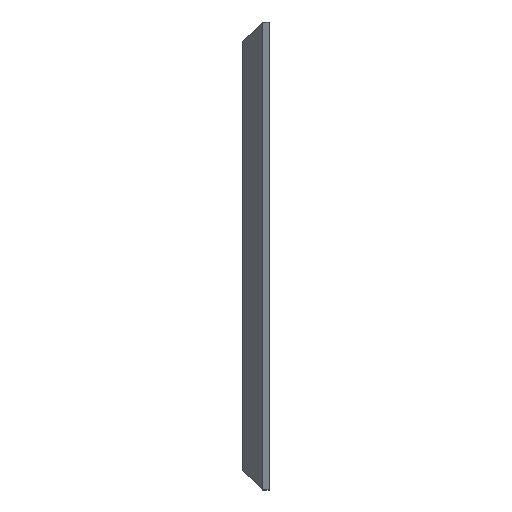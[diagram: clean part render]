
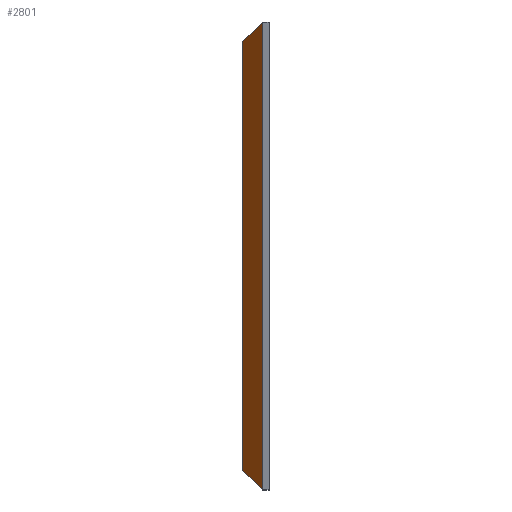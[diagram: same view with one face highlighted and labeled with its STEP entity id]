
A CAD part, left-side view. The second image highlights one B-rep face of the part: STEP entity #2801.
In plain terms, the highlighted planar face has unit normal (-0.683, 0.707, -0.183).
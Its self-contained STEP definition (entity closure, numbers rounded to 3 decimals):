
#285 = EDGE_LOOP ( 'NONE', ( #4992, #4993, #4994, #4995 ) ) ;
#879 = VECTOR ( 'NONE', #4110, 1000. ) ;
#881 = LINE ( 'NONE', #4111, #879 ) ;
#883 = VECTOR ( 'NONE', #4112, 1000. ) ;
#887 = LINE ( 'NONE', #4113, #883 ) ;
#903 = VECTOR ( 'NONE', #4140, 1000. ) ;
#905 = LINE ( 'NONE', #4141, #903 ) ;
#942 = VECTOR ( 'NONE', #4166, 1000. ) ;
#944 = LINE ( 'NONE', #4167, #942 ) ;
#1850 = EDGE_CURVE ( 'NONE', #4691, #4595, #944, .T. ) ;
#1868 = EDGE_CURVE ( 'NONE', #4690, #4597, #905, .T. ) ;
#1878 = EDGE_CURVE ( 'NONE', #4595, #4690, #887, .T. ) ;
#1879 = EDGE_CURVE ( 'NONE', #4597, #4691, #881, .T. ) ;
#2801 = ADVANCED_FACE ( 'NONE', ( #3595 ), #10004, .T. ) ;
#3595 = FACE_OUTER_BOUND ( 'NONE', #285, .T. ) ;
#4110 = DIRECTION ( 'NONE',  ( 0.477, 0.622, 0.622 ) ) ;
#4111 = CARTESIAN_POINT ( 'NONE',  ( 36.204, -20., -145.034 ) ) ;
#4112 = DIRECTION ( 'NONE',  ( -0.678, -0.52, 0.52 ) ) ;
#4113 = CARTESIAN_POINT ( 'NONE',  ( 135.607, 154.781, 159.291 ) ) ;
#4140 = DIRECTION ( 'NONE',  ( 0.259, 0., -0.966 ) ) ;
#4141 = CARTESIAN_POINT ( 'NONE',  ( 36.204, -20., -145.034 ) ) ;
#4166 = DIRECTION ( 'NONE',  ( -0.259, 0., 0.966 ) ) ;
#4167 = CARTESIAN_POINT ( 'NONE',  ( -72.853, 0., 339.248 ) ) ;
#4595 = VERTEX_POINT ( 'NONE', #9770 ) ;
#4597 = VERTEX_POINT ( 'NONE', #9768 ) ;
#4690 = VERTEX_POINT ( 'NONE', #9664 ) ;
#4691 = VERTEX_POINT ( 'NONE', #9663 ) ;
#4992 = ORIENTED_EDGE ( 'NONE', *, *, #1878, .F. ) ;
#4993 = ORIENTED_EDGE ( 'NONE', *, *, #1850, .F. ) ;
#4994 = ORIENTED_EDGE ( 'NONE', *, *, #1879, .F. ) ;
#4995 = ORIENTED_EDGE ( 'NONE', *, *, #1868, .F. ) ;
#8550 = AXIS2_PLACEMENT_3D ( 'NONE', #10003, #10002, #10001 ) ;
#9663 = CARTESIAN_POINT ( 'NONE',  ( 51.551, 0., -125.034 ) ) ;
#9664 = CARTESIAN_POINT ( 'NONE',  ( -92.172, -20., 334.072 ) ) ;
#9768 = CARTESIAN_POINT ( 'NONE',  ( 36.204, -20., -145.034 ) ) ;
#9770 = CARTESIAN_POINT ( 'NONE',  ( -66.107, 0., 314.072 ) ) ;
#10001 = DIRECTION ( 'NONE',  ( -0.719, -0.695, 0. ) ) ;
#10002 = DIRECTION ( 'NONE',  ( -0.683, 0.707, -0.183 ) ) ;
#10003 = CARTESIAN_POINT ( 'NONE',  ( 36.204, -20., -145.034 ) ) ;
#10004 = PLANE ( 'NONE',  #8550 ) ;
